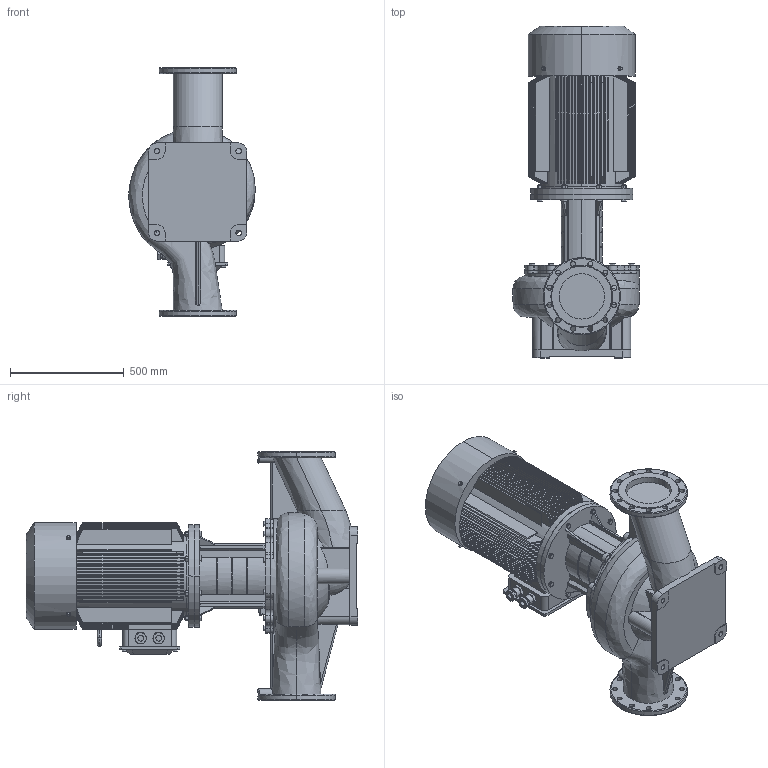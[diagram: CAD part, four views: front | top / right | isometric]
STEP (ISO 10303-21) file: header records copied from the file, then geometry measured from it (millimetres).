
FILE_DESCRIPTION (( 'STEP AP203' ), '1' );
FILE_NAME ('TD200-31G／4.STEP', '2026-09-07T03:12:16', ( '' ), ( '' ), 'SwSTEP 2.0', 'SolidWorks 2020', '' );
FILE_SCHEMA (( 'CONFIG_CONTROL_DESIGN' ));
Products named in the file (1): TD200-31Gㄞ4
Bounding box: 556.07 x 1461 x 1100 mm (x, y, z)
Volume: 217962224.1 mm3; surface area: 7817713.1 mm2
Topology: 1 solids, 13 shells, 1869 faces, 4731 edges, 2995 vertices
Faces by surface type: plane 802, cylinder 508, cone 462, torus 53, bspline 44
Entity records: 80957 total; most frequent: CARTESIAN_POINT 36879, ORIENTED_EDGE 9458, DIRECTION 8903, EDGE_CURVE 4729, AXIS2_PLACEMENT_3D 3549, VERTEX_POINT 2995, EDGE_LOOP 2054, ADVANCED_FACE 1869
